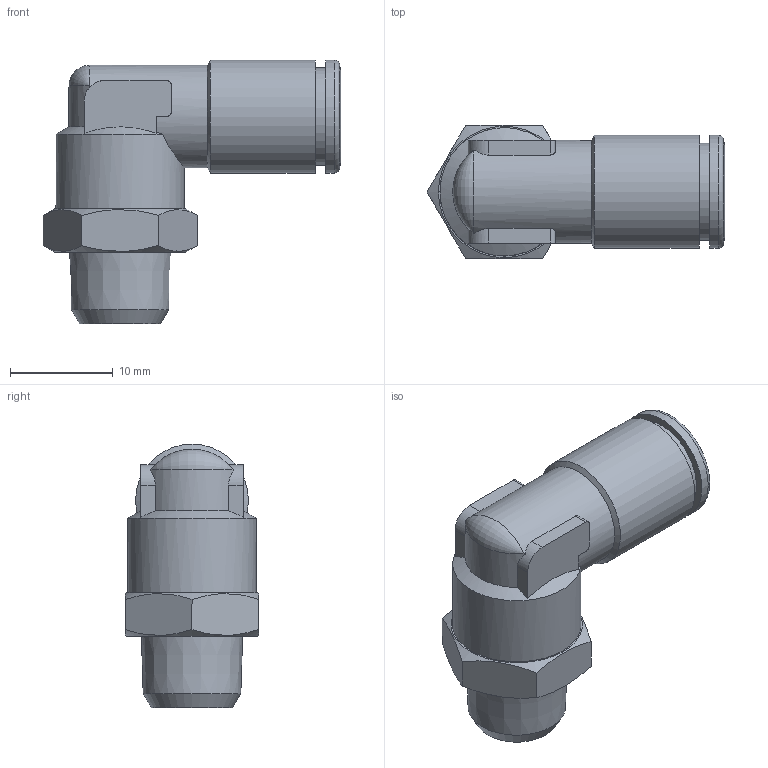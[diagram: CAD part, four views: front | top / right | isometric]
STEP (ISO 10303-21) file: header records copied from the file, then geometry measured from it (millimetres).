
FILE_DESCRIPTION(/* description */ (''),/* implementation_level */ '2;1');
FILE_NAME(/* name */ '202253-ES_STX022K_6_R18_16.06.16',/* time_stamp */ '2016-06-16T10:09:47+02:00',/* author */ (''),/* organization */ (''),/* preprocessor_version */ 'ST-DEVELOPER v14',/* originating_system */ 'HiCAD 2013 1802.4 Build 509',/* authorisation */ '');
FILE_SCHEMA (('AUTOMOTIVE_DESIGN { 1 0 10303 214 1 1 1 1 }'));
Length unit declared in the file: millimetre
Products named in the file (4): Root; 214625-1-N2; R202203-ES; DR6-1_NEU
Assembly tree (3 placements, depth 2):
  Root
    214625-1-N2
    R202203-ES
    DR6-1_NEU
Bounding box: 29.01 x 13 x 25.7 mm (x, y, z)
Volume: 2720.2 mm3; surface area: 3485.7 mm2
Topology: 3 solids, 3 shells, 72 faces, 164 edges, 103 vertices
Faces by surface type: plane 28, cylinder 23, cone 19, torus 2
Full cylindrical faces by diameter (mm): 5.5 x1, 6 x1, 6.1 x1, 6.2 x1, 8.3 x1, 9 x3, 9.5 x1, 9.6 x1, 10 x1, 10.1 x2, 11 x2, 12.5 x1
Entity records: 4390 total; most frequent: CARTESIAN_POINT 1597, DIRECTION 342, PRESENTATION_STYLE_ASSIGNMENT 249, OVER_RIDING_STYLED_ITEM 246, COLOUR_RGB 240, DRAUGHTING_PRE_DEFINED_CURVE_FONT 238, CURVE_STYLE 238, ORIENTED_EDGE 238
